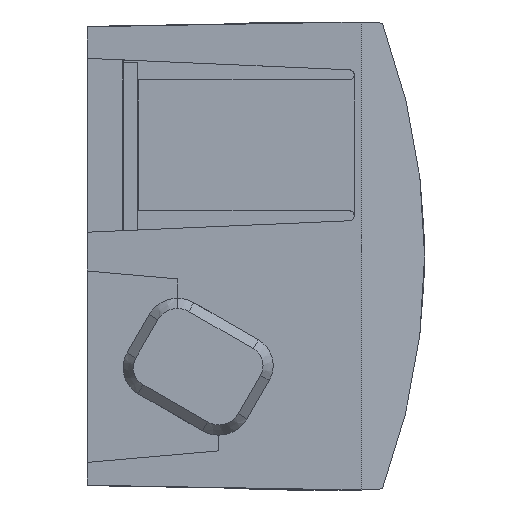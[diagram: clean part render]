
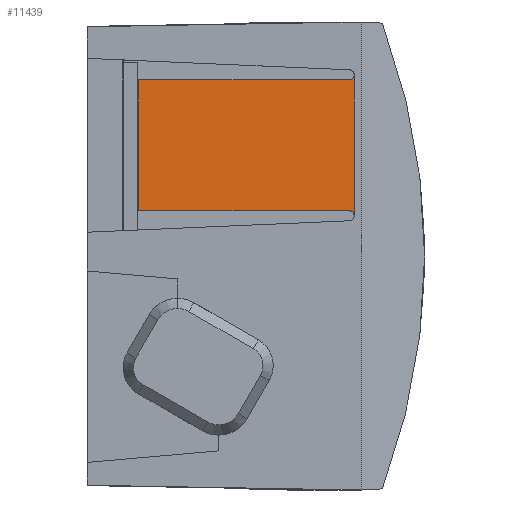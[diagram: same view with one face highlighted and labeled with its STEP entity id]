
A CAD part, front view. The second image highlights one B-rep face of the part: STEP entity #11439.
In plain terms, the highlighted planar face has unit normal (0, -1, 0).
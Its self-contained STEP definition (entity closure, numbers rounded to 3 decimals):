
#911 = DIRECTION ( 'NONE',  ( -1., 0., 0. ) ) ;
#1281 = DIRECTION ( 'NONE',  ( 0., 0., 1. ) ) ;
#1337 = AXIS2_PLACEMENT_3D ( 'NONE', #15040, #3518, #13524 ) ;
#1487 = ORIENTED_EDGE ( 'NONE', *, *, #6318, .T. ) ;
#1535 = DIRECTION ( 'NONE',  ( 0., 0., -1. ) ) ;
#1873 = AXIS2_PLACEMENT_3D ( 'NONE', #9749, #14907, #911 ) ;
#1930 = PLANE ( 'NONE',  #1873 ) ;
#2161 = CARTESIAN_POINT ( 'NONE',  ( 26.022, 1., 4.5 ) ) ;
#2214 = CIRCLE ( 'NONE', #11636, 0.5 ) ;
#2569 = CARTESIAN_POINT ( 'NONE',  ( 26.5, 1., 18. ) ) ;
#2797 = VECTOR ( 'NONE', #8367, 1000. ) ;
#3139 = LINE ( 'NONE', #13336, #12964 ) ;
#3307 = VERTEX_POINT ( 'NONE', #9904 ) ;
#3518 = DIRECTION ( 'NONE',  ( 0., 1., 0. ) ) ;
#4104 = CARTESIAN_POINT ( 'NONE',  ( 26.5, 1., 4. ) ) ;
#4233 = ORIENTED_EDGE ( 'NONE', *, *, #10825, .T. ) ;
#4244 = VERTEX_POINT ( 'NONE', #5011 ) ;
#4588 = CIRCLE ( 'NONE', #1337, 0.5 ) ;
#5011 = CARTESIAN_POINT ( 'NONE',  ( 5.1, 1., 17.5 ) ) ;
#6318 = EDGE_CURVE ( 'NONE', #4244, #3307, #3139, .T. ) ;
#6508 = VERTEX_POINT ( 'NONE', #14561 ) ;
#6509 = ORIENTED_EDGE ( 'NONE', *, *, #13849, .T. ) ;
#6867 = VERTEX_POINT ( 'NONE', #12000 ) ;
#7737 = EDGE_CURVE ( 'NONE', #6508, #9925, #2214, .T. ) ;
#8367 = DIRECTION ( 'NONE',  ( 1., 0., 0. ) ) ;
#8440 = EDGE_CURVE ( 'NONE', #6867, #4244, #10915, .T. ) ;
#8643 = FACE_OUTER_BOUND ( 'NONE', #8811, .T. ) ;
#8811 = EDGE_LOOP ( 'NONE', ( #6509, #14601, #1487, #10903, #14261, #4233 ) ) ;
#9670 = EDGE_CURVE ( 'NONE', #3307, #6508, #14884, .T. ) ;
#9749 = CARTESIAN_POINT ( 'NONE',  ( 26., 1., 4. ) ) ;
#9824 = DIRECTION ( 'NONE',  ( -1., 0., 0. ) ) ;
#9827 = CARTESIAN_POINT ( 'NONE',  ( 26.5, 1., 18. ) ) ;
#9904 = CARTESIAN_POINT ( 'NONE',  ( 5.1, 1., 4.5 ) ) ;
#9925 = VERTEX_POINT ( 'NONE', #4104 ) ;
#9953 = DIRECTION ( 'NONE',  ( 1., 0., 0. ) ) ;
#10825 = EDGE_CURVE ( 'NONE', #9925, #15328, #12936, .T. ) ;
#10903 = ORIENTED_EDGE ( 'NONE', *, *, #9670, .T. ) ;
#10915 = LINE ( 'NONE', #11177, #13254 ) ;
#11177 = CARTESIAN_POINT ( 'NONE',  ( 26.022, 1., 17.5 ) ) ;
#11439 = ADVANCED_FACE ( 'NONE', ( #8643 ), #1930, .T. ) ;
#11636 = AXIS2_PLACEMENT_3D ( 'NONE', #16271, #13914, #9953 ) ;
#12000 = CARTESIAN_POINT ( 'NONE',  ( 26.022, 1., 17.5 ) ) ;
#12655 = VECTOR ( 'NONE', #1281, 1000. ) ;
#12936 = LINE ( 'NONE', #2569, #12655 ) ;
#12964 = VECTOR ( 'NONE', #1535, 1000. ) ;
#13254 = VECTOR ( 'NONE', #9824, 1000. ) ;
#13336 = CARTESIAN_POINT ( 'NONE',  ( 5.1, 1., 17.5 ) ) ;
#13524 = DIRECTION ( 'NONE',  ( 1., 0., 0. ) ) ;
#13849 = EDGE_CURVE ( 'NONE', #15328, #6867, #4588, .T. ) ;
#13914 = DIRECTION ( 'NONE',  ( 0., 1., 0. ) ) ;
#14261 = ORIENTED_EDGE ( 'NONE', *, *, #7737, .T. ) ;
#14561 = CARTESIAN_POINT ( 'NONE',  ( 26.022, 1., 4.5 ) ) ;
#14601 = ORIENTED_EDGE ( 'NONE', *, *, #8440, .T. ) ;
#14884 = LINE ( 'NONE', #2161, #2797 ) ;
#14907 = DIRECTION ( 'NONE',  ( 0., -1., 0. ) ) ;
#15040 = CARTESIAN_POINT ( 'NONE',  ( 26., 1., 18. ) ) ;
#15328 = VERTEX_POINT ( 'NONE', #9827 ) ;
#16271 = CARTESIAN_POINT ( 'NONE',  ( 26., 1., 4. ) ) ;
